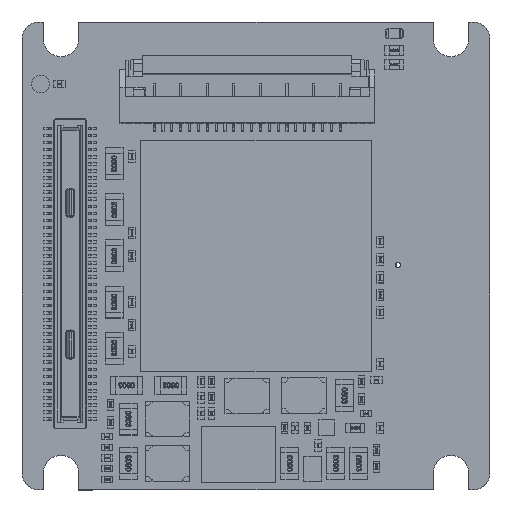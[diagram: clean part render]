
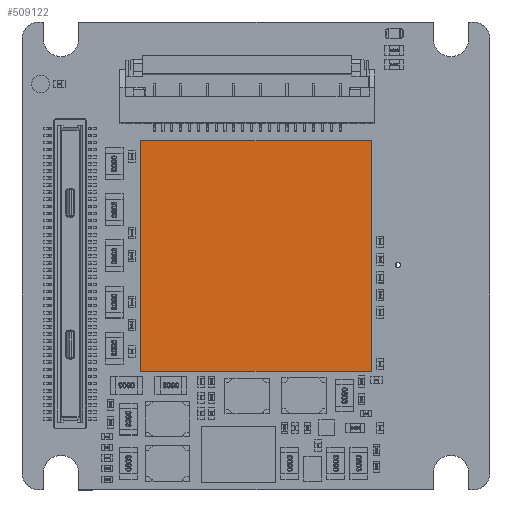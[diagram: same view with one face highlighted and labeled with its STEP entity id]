
A CAD part, top view. The second image highlights one B-rep face of the part: STEP entity #509122.
In plain terms, the highlighted planar face has unit normal (0, 0, 1).
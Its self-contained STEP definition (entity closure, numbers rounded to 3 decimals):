
#4270 = LINE ( 'NONE', #50519, #109982 ) ;
#7202 = ORIENTED_EDGE ( 'NONE', *, *, #531543, .F. ) ;
#25889 = VERTEX_POINT ( 'NONE', #294148 ) ;
#50519 = CARTESIAN_POINT ( 'NONE',  ( 6.5, 6.5, 6.162 ) ) ;
#63110 = DIRECTION ( 'NONE',  ( 1., 0., 0. ) ) ;
#64905 = FACE_OUTER_BOUND ( 'NONE', #146795, .T. ) ;
#71325 = EDGE_CURVE ( 'NONE', #577065, #252493, #4270, .T. ) ;
#94555 = VERTEX_POINT ( 'NONE', #498250 ) ;
#109982 = VECTOR ( 'NONE', #110796, 1000. ) ;
#110699 = VECTOR ( 'NONE', #618710, 1000. ) ;
#110788 = AXIS2_PLACEMENT_3D ( 'NONE', #278064, #231743, #650466 ) ;
#110796 = DIRECTION ( 'NONE',  ( 0., -1., 0. ) ) ;
#114774 = PLANE ( 'NONE',  #110788 ) ;
#139173 = ORIENTED_EDGE ( 'NONE', *, *, #682907, .F. ) ;
#146795 = EDGE_LOOP ( 'NONE', ( #7202, #592998, #170537, #139173 ) ) ;
#166111 = LINE ( 'NONE', #386082, #221120 ) ;
#170537 = ORIENTED_EDGE ( 'NONE', *, *, #613409, .F. ) ;
#221120 = VECTOR ( 'NONE', #63110, 1000. ) ;
#231743 = DIRECTION ( 'NONE',  ( 0., 0., -1. ) ) ;
#246297 = LINE ( 'NONE', #668634, #110699 ) ;
#252493 = VERTEX_POINT ( 'NONE', #695212 ) ;
#278064 = CARTESIAN_POINT ( 'NONE',  ( 0., 0., 6.162 ) ) ;
#294148 = CARTESIAN_POINT ( 'NONE',  ( -6.5, -6.5, 6.162 ) ) ;
#301973 = DIRECTION ( 'NONE',  ( -1., 0., 0. ) ) ;
#332374 = CARTESIAN_POINT ( 'NONE',  ( 6.5, 6.5, 6.162 ) ) ;
#386082 = CARTESIAN_POINT ( 'NONE',  ( -6.5, 6.5, 6.162 ) ) ;
#408340 = CARTESIAN_POINT ( 'NONE',  ( 6.5, -6.5, 6.162 ) ) ;
#468666 = LINE ( 'NONE', #408340, #620045 ) ;
#498250 = CARTESIAN_POINT ( 'NONE',  ( -6.5, 6.5, 6.162 ) ) ;
#509122 = ADVANCED_FACE ( 'NONE', ( #64905 ), #114774, .F. ) ;
#531543 = EDGE_CURVE ( 'NONE', #252493, #25889, #468666, .T. ) ;
#577065 = VERTEX_POINT ( 'NONE', #332374 ) ;
#592998 = ORIENTED_EDGE ( 'NONE', *, *, #71325, .F. ) ;
#613409 = EDGE_CURVE ( 'NONE', #94555, #577065, #166111, .T. ) ;
#618710 = DIRECTION ( 'NONE',  ( 0., 1., 0. ) ) ;
#620045 = VECTOR ( 'NONE', #301973, 1000. ) ;
#650466 = DIRECTION ( 'NONE',  ( 0., -1., 0. ) ) ;
#668634 = CARTESIAN_POINT ( 'NONE',  ( -6.5, -6.5, 6.162 ) ) ;
#682907 = EDGE_CURVE ( 'NONE', #25889, #94555, #246297, .T. ) ;
#695212 = CARTESIAN_POINT ( 'NONE',  ( 6.5, -6.5, 6.162 ) ) ;
